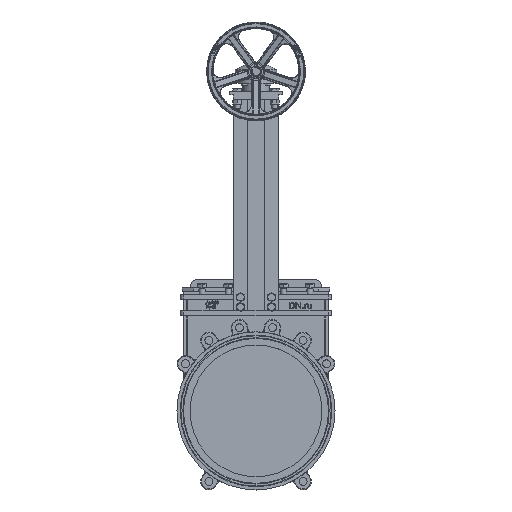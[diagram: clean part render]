
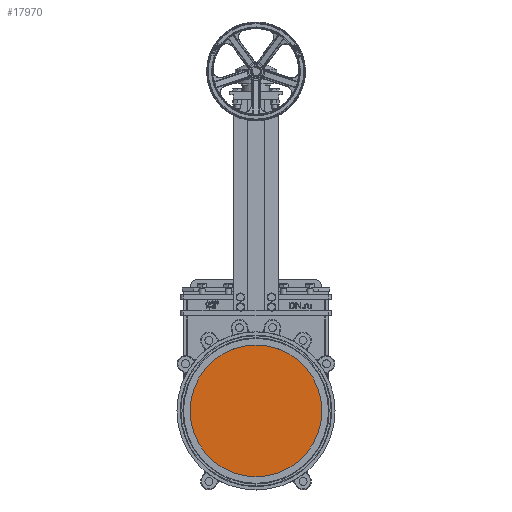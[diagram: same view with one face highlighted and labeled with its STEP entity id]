
A CAD part, top view. The second image highlights one B-rep face of the part: STEP entity #17970.
In plain terms, the highlighted planar face has unit normal (0, 0, 1).
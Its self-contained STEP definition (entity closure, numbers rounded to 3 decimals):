
#17970=ADVANCED_FACE('',(#40763),#40765,.T.);
#40763=FACE_BOUND('',#40764,.T.);
#40764=EDGE_LOOP('',(#50994));
#40765=PLANE('',#40766);
#40766=AXIS2_PLACEMENT_3D('',#40767,#40768,#40769);
#40767=CARTESIAN_POINT('',(0.,0.,5.));
#40768=DIRECTION('',(0.,0.,1.));
#40769=DIRECTION('',(1.,0.,0.));
#50994=ORIENTED_EDGE('',*,*,#55890,.T.);
#55890=EDGE_CURVE('',#63898,#63898,#63899,.F.);
#63898=VERTEX_POINT('',#116981);
#63899=CIRCLE('',#116982,200.);
#116981=CARTESIAN_POINT('',(0.,200.,5.));
#116982=AXIS2_PLACEMENT_3D('',#116983,#116984,#116985);
#116983=CARTESIAN_POINT('',(0.,0.,5.));
#116984=DIRECTION('',(0.,0.,-1.));
#116985=DIRECTION('',(0.,1.,0.));
